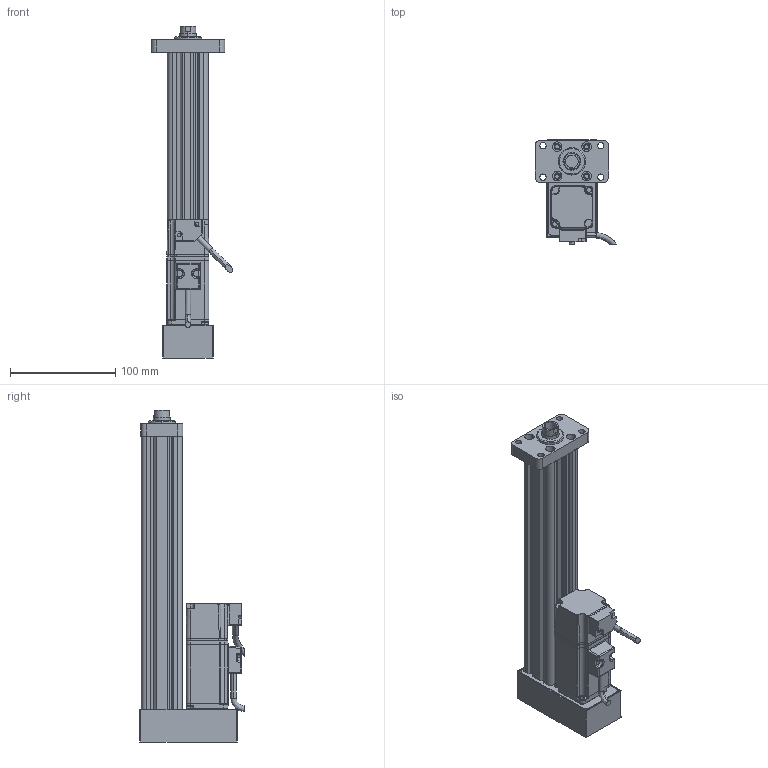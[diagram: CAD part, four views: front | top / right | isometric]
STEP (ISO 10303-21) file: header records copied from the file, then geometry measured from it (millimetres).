
FILE_DESCRIPTION (( 'STEP AP214' ), '1' );
FILE_NAME ('039-S200-D02-B-M3-C2-2.STEP', '2021-02-25T08:44:03', ( '' ), ( '' ), 'SwSTEP 2.0', 'SolidWorks 2018', '' );
FILE_SCHEMA (( 'AUTOMOTIVE_DESIGN' ));
Length unit declared in the file: millimetre
Products named in the file (7): CMC039-GT; CMC039-FL; CMC039-DT; CMC039-LJB; 039-S200-D02-B-M3-C2-2; CMC039-XT; ECMA-CX0401ES-40框號系列機種-100W低慣量系列
Assembly tree (6 placements, depth 2):
  039-S200-D02-B-M3-C2-2
    CMC039-GT
    CMC039-LJB
    CMC039-XT
    CMC039-FL
    CMC039-DT
    ECMA-CX0401ES-40框號系列機種-100W低慣量系列
Bounding box: 77.84 x 99.39 x 316 mm (x, y, z)
Volume: 462853.2 mm3; surface area: 167140.8 mm2
Topology: 6 solids, 14 shells, 612 faces, 1592 edges, 989 vertices
Faces by surface type: cylinder 250, plane 239, bspline 84, cone 39
Entity records: 24722 total; most frequent: CARTESIAN_POINT 10684, ORIENTED_EDGE 3118, DIRECTION 2445, EDGE_CURVE 1559, VERTEX_POINT 989, AXIS2_PLACEMENT_3D 837, LINE 771, VECTOR 771
